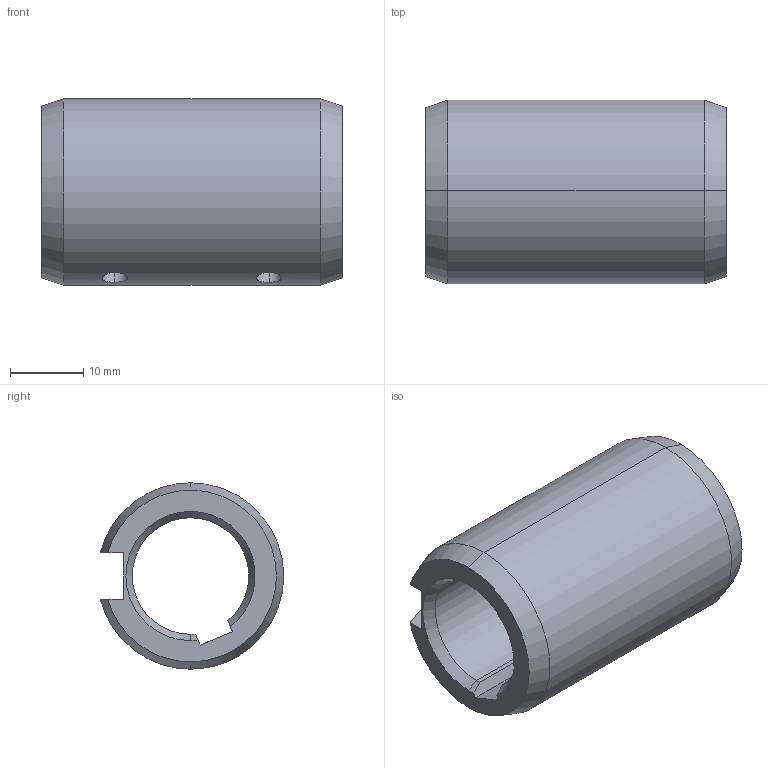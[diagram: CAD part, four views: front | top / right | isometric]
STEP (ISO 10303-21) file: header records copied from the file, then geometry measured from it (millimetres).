
FILE_DESCRIPTION (( 'STEP AP203' ), '1' );
FILE_NAME ('KBSH045P10.STEP', '2023-08-01T03:54:18', ( '' ), ( '' ), 'SwSTEP 2.0', 'SolidWorks 2012', '' );
FILE_SCHEMA (( 'CONFIG_CONTROL_DESIGN' ));
Length unit declared in the file: millimetre
Products named in the file (1): KBSH045P10
Bounding box: 41 x 25 x 25.4 mm (x, y, z)
Volume: 11154 mm3; surface area: 6104.1 mm2
Topology: 1 solids, 1 shells, 30 faces, 76 edges, 48 vertices
Faces by surface type: cone 12, cylinder 10, plane 8
Entity records: 1101 total; most frequent: CARTESIAN_POINT 287, DIRECTION 154, ORIENTED_EDGE 152, EDGE_CURVE 76, AXIS2_PLACEMENT_3D 59, VERTEX_POINT 48, VECTOR 36, LINE 36
